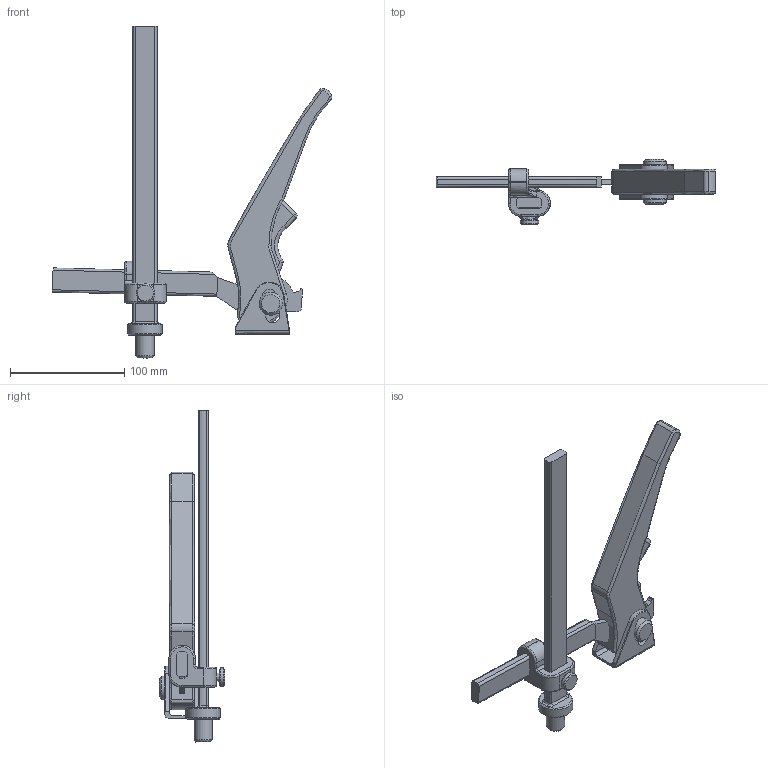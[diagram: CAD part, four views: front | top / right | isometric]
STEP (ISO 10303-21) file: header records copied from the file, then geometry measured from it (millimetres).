
FILE_DESCRIPTION( ('This file contains a STEP AP42 implementation' ,'as created by ZW3D STEP Interface translator.') ,'2;1' );
FILE_NAME( 'TWV16-20-15H.stp' ,'15 311.131316', (''), ('ZWCAD Software Co.'), 'Version 1.0', 'ZW3D to STEP translator', '' );
FILE_SCHEMA( ('CONFIG_CONTROL_DESIGN') );
Length unit declared in the file: millimetre
Products named in the file (7): 0; TWV16-20-15H_unten; TWV_Gleitbuegel_kpl; 3008986a_Kreuzhalter_TW16; Hebel; Druckplatte; Schiene TW16-20 kpl
Assembly tree (5 placements, depth 4):
  0
  TWV16-20-15H_unten
    TWV_Gleitbuegel_kpl
      3008986a_Kreuzhalter_TW16
      Hebel
        Druckplatte
    Schiene TW16-20 kpl
Bounding box: 244.15 x 57.5 x 290 mm (x, y, z)
Volume: 207728.1 mm3; surface area: 73297.5 mm2
Topology: 8 solids, 10 shells, 247 faces, 571 edges, 343 vertices
Faces by surface type: bspline 247
Entity records: 10702 total; most frequent: CARTESIAN_POINT 7081, ORIENTED_EDGE 1136, EDGE_CURVE 569, VERTEX_POINT 343, B_SPLINE_CURVE_WITH_KNOTS 298, EDGE_LOOP 260, FACE_OUTER_BOUND 247, ADVANCED_FACE 247
